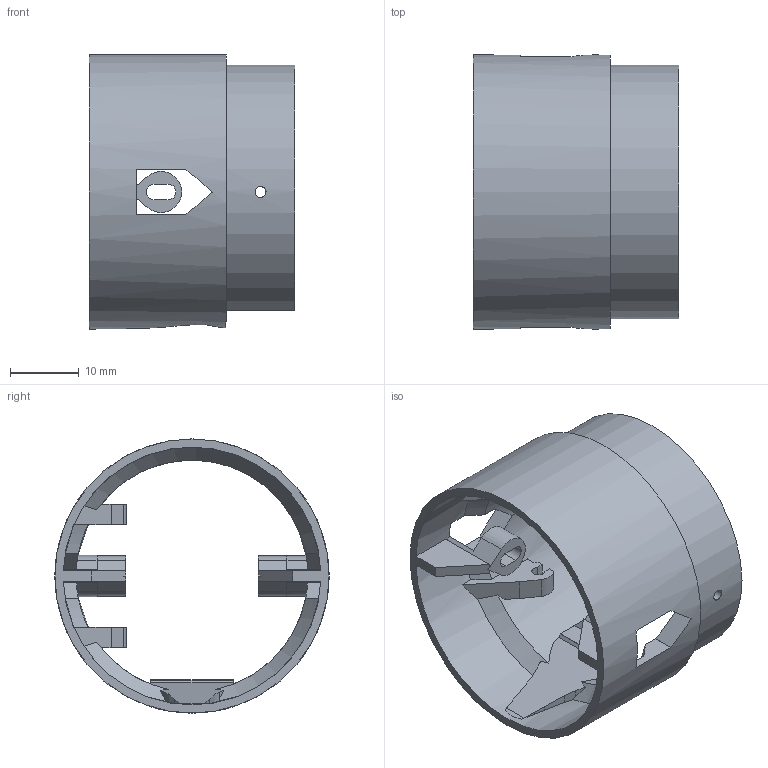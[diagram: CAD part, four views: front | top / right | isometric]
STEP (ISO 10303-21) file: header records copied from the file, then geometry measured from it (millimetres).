
FILE_DESCRIPTION(('SkyG Speed 90 - revision C6-9 - 2026-10-07','N0MD-nose-micro-dome'),'2;1');
FILE_NAME('N0MD-nose-micro-dome_C6-9','2026-10-07T14:03:25',('Author'),( 'Open CASCADE'),'Open CASCADE STEP processor 7.9','Open CASCADE 7.9' ,'Unknown');
FILE_SCHEMA(('AUTOMOTIVE_DESIGN { 1 0 10303 214 1 1 1 1 }'));
Length unit declared in the file: millimetre
Products named in the file (1): N0MD-nose-micro-dome C6-9
Bounding box: 30 x 40 x 40 mm (x, y, z)
Volume: 6677 mm3; surface area: 8247.5 mm2
Topology: 1 solids, 1 shells, 162 faces, 478 edges, 315 vertices
Faces by surface type: plane 108, cylinder 29, bspline 20, cone 5
Full cylindrical faces by diameter (mm): 1.6 x2, 40 x1
Entity records: 13183 total; most frequent: CARTESIAN_POINT 4453, DIRECTION 1388, ORIENTED_EDGE 956, PCURVE 956, DEFINITIONAL_REPRESENTATION 956, LINE 746, VECTOR 746, EDGE_CURVE 478
